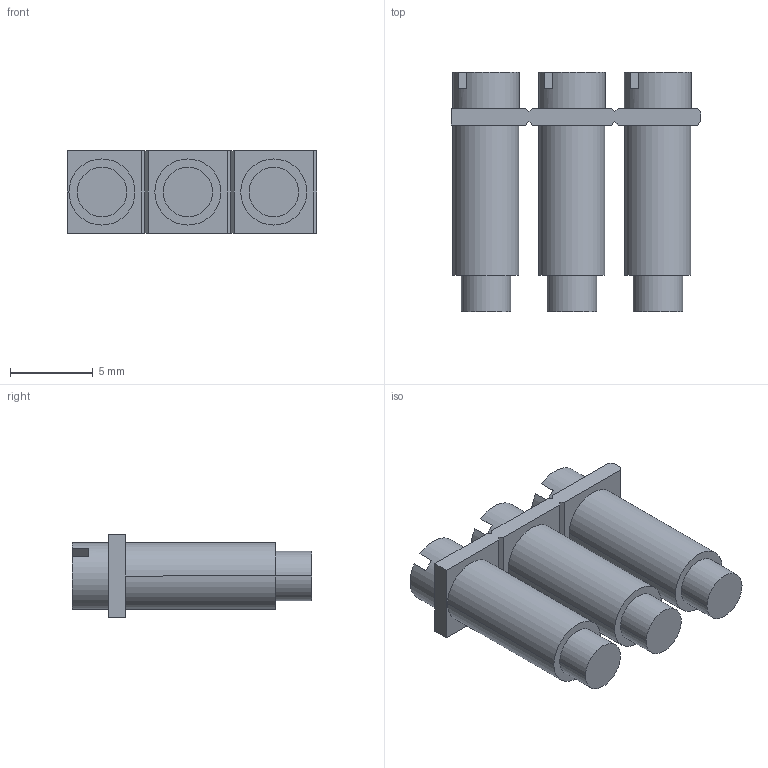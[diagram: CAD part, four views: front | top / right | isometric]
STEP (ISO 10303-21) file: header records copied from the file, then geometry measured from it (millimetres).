
FILE_DESCRIPTION( ('This file contains a STEP AP42 implementation' ,'as created by ZW3D STEP Interface translator.') ,'2;1' );
FILE_NAME( 'FBI 3-5桥接件-模型.stp' ,'231227.164345', (''), ('ZWCAD Software Co.'), 'Version 1.0', 'ZW3D to STEP translator', '' );
FILE_SCHEMA(('AUTOMOTIVE_DESIGN { 1 0 10303 214 1 1 1 1 }'));
Length unit declared in the file: millimetre
Products named in the file (2): 0; FBI 10-5 C+H-CAP桥接件-模型
Bounding box: 15.1 x 14.5 x 5 mm (x, y, z)
Volume: 540.8 mm3; surface area: 701.9 mm2
Topology: 1 solids, 1 shells, 56 faces, 135 edges, 90 vertices
Faces by surface type: plane 41, cylinder 15
Full cylindrical faces by diameter (mm): 4.05 x3
Entity records: 1727 total; most frequent: DIRECTION 291, CARTESIAN_POINT 282, ORIENTED_EDGE 270, EDGE_CURVE 135, AXIS2_PLACEMENT_3D 99, VECTOR 93, LINE 93, VERTEX_POINT 90
